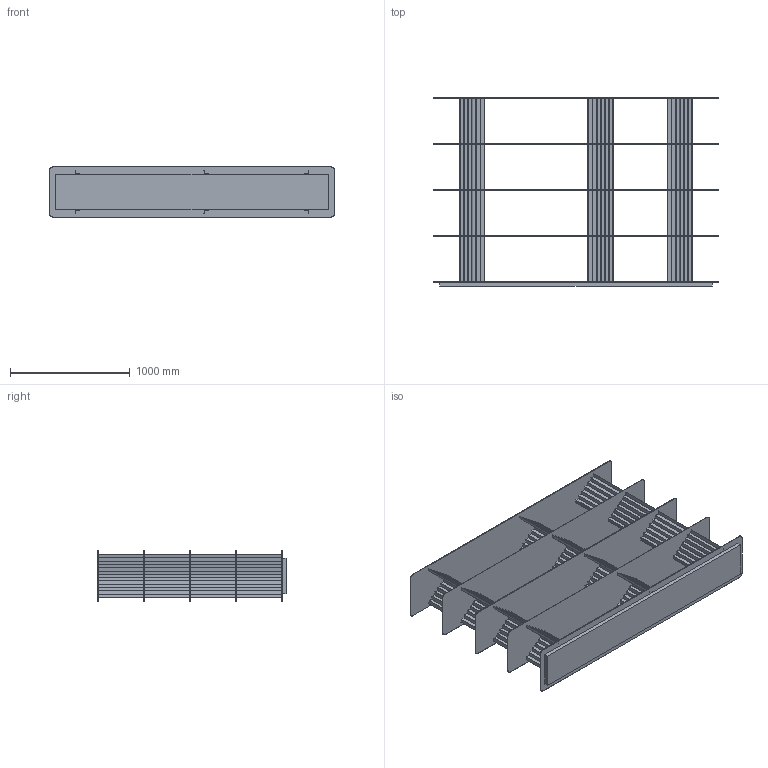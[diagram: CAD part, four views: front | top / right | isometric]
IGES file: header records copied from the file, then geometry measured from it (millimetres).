
Start section: SolidWorks IGES file using analytic representation for surfaces
Global section: file name: Z:\30-Ingenieria I+D\Proyectos\03-Plec_Shelves APO\1-sw\WEB\Arxius\PLEC SHELVES L 4 NIVELES.IGS; native system: SolidWorks 2020; preprocessor: SolidWorks 2020; author: Bernat Llonch; date: 250508.115716; units: millimetre
Bounding box: 2379 x 1571 x 420 mm (x, y, z)
Surface area: 18247101.1 mm2 (no closed solid volume)
Topology: 0 solids, 0 shells, 704 faces, 4288 edges, 4288 vertices
Faces by surface type: bspline 684, revolution 20
